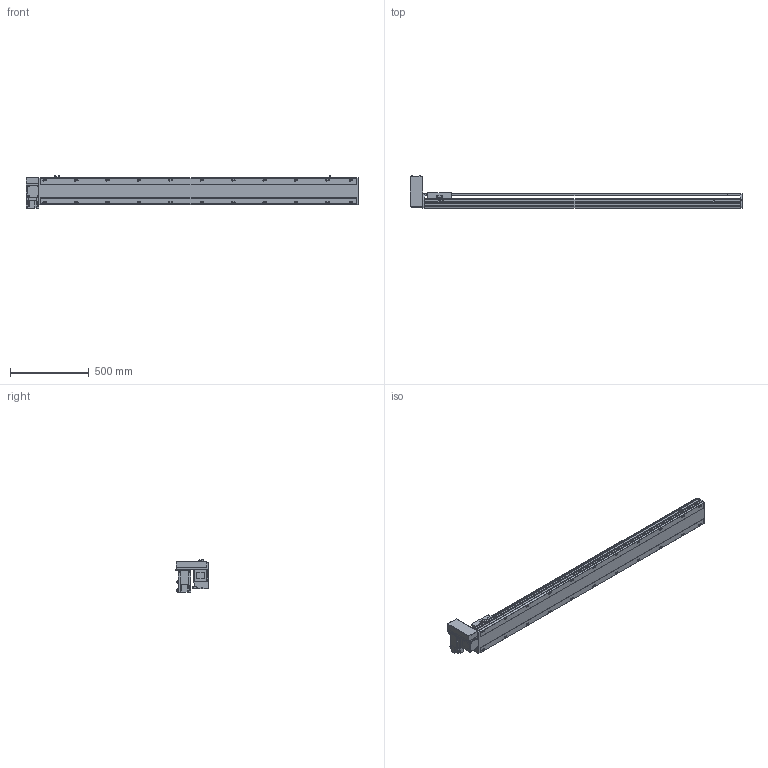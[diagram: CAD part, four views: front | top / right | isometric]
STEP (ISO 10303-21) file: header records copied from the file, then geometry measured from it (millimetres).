
FILE_DESCRIPTION( ( 'STEP AP214' ), '1' );
FILE_NAME( 'x:/temp/worker_5/temp/exporttempdir_3988_135_Me32g/format_0/PBS170-P40-S1750-RU-T75-C1-N(0).stp', '2022-06-08T05:59:36', ( 'License CC BY-ND 4.0' ), ( 'CADENAS' ), ' ', 'PARTsolutions', ' ' );
FILE_SCHEMA( ( 'AUTOMOTIVE_DESIGN { 1 0 10303 214 1 1 1 1 }' ) );
Length unit declared in the file: millimetre
Products named in the file (7): PBS170-P40-S1750-RU-T75-C1-N(0); _PBS170-S1750()_body; _PBS170T-RU_motors; _T75-p1; _PBS170_sliser; _PBS170_plant; _PBS170_sensor
Assembly tree (8 placements, depth 2):
  PBS170-P40-S1750-RU-T75-C1-N(0)
    _PBS170-S1750()_body
    _PBS170T-RU_motors
    _T75-p1
    _PBS170_sliser
    _PBS170_plant
    _PBS170_sensor  x3
Bounding box: 2113 x 206 x 205.3 mm (x, y, z)
Volume: 16334979.5 mm3; surface area: 2084694 mm2
Topology: 8 solids, 8 shells, 1130 faces, 2995 edges, 1952 vertices
Faces by surface type: plane 705, cylinder 363, cone 52, sphere 8, torus 2
Full cylindrical faces by diameter (mm): 3.242 x4, 4 x2, 4.4 x4, 4.5 x6, 4.917 x4, 6 x9, 6.647 x30, 7 x2, 7.5 x4, 8 x8, 8.5 x22, 10 x4, 10.5 x22, 11 x2, 30 x2, 40 x1, 70 x1
Entity records: 41666 total; most frequent: CARTESIAN_POINT 6725, DIRECTION 5510, ORIENTED_EDGE 5208, EDGE_CURVE 2604, AXIS2_PLACEMENT_3D 1927, VERTEX_POINT 1802, LINE 1656, VECTOR 1656
